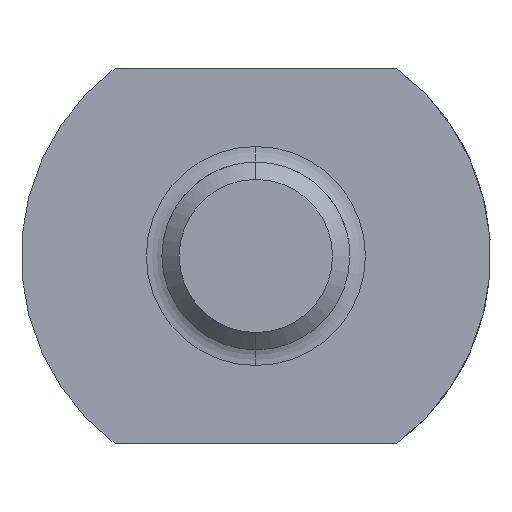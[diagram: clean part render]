
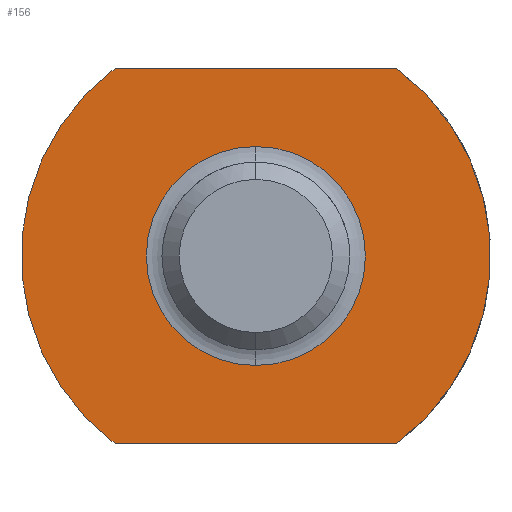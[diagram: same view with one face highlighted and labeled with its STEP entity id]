
A CAD part, left-side view. The second image highlights one B-rep face of the part: STEP entity #156.
In plain terms, the highlighted planar face has unit normal (-1, 0, 0).
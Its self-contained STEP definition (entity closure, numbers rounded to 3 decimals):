
#57=CARTESIAN_POINT('Line Origine',(0.,0.,-10.)) ;
#61=CARTESIAN_POINT('Vertex',(0.,-7.5,-10.)) ;
#63=CARTESIAN_POINT('Vertex',(0.,7.5,-10.)) ;
#92=CARTESIAN_POINT('Axis2P3D Location',(0.,5.833,0.)) ;
#97=CARTESIAN_POINT('Axis2P3D Location',(0.,0.,0.)) ;
#101=CARTESIAN_POINT('Vertex',(0.,7.5,10.)) ;
#104=CARTESIAN_POINT('Axis2P3D Location',(0.,0.,0.)) ;
#108=CARTESIAN_POINT('Vertex',(0.,-7.5,10.)) ;
#111=CARTESIAN_POINT('Line Origine',(0.,0.,10.)) ;
#122=CARTESIAN_POINT('Axis2P3D Location',(0.,0.,0.)) ;
#126=CARTESIAN_POINT('Vertex',(0.,5.833,0.)) ;
#128=CARTESIAN_POINT('Vertex',(0.,0.,5.833)) ;
#131=CARTESIAN_POINT('Axis2P3D Location',(0.,0.,0.)) ;
#135=CARTESIAN_POINT('Vertex',(0.,-5.833,0.)) ;
#138=CARTESIAN_POINT('Axis2P3D Location',(0.,0.,0.)) ;
#142=CARTESIAN_POINT('Vertex',(0.,0.,-5.833)) ;
#145=CARTESIAN_POINT('Axis2P3D Location',(0.,0.,0.)) ;
#58=DIRECTION('Vector Direction',(0.,1.,0.)) ;
#93=DIRECTION('Axis2P3D Direction',(1.,0.,-0.)) ;
#94=DIRECTION('Axis2P3D XDirection',(-0.,0.,-1.)) ;
#98=DIRECTION('Axis2P3D Direction',(1.,0.,-0.)) ;
#105=DIRECTION('Axis2P3D Direction',(1.,0.,-0.)) ;
#112=DIRECTION('Vector Direction',(0.,-1.,0.)) ;
#123=DIRECTION('Axis2P3D Direction',(1.,0.,-0.)) ;
#132=DIRECTION('Axis2P3D Direction',(1.,0.,-0.)) ;
#139=DIRECTION('Axis2P3D Direction',(1.,0.,-0.)) ;
#146=DIRECTION('Axis2P3D Direction',(1.,0.,-0.)) ;
#95=AXIS2_PLACEMENT_3D('Plane Axis2P3D',#92,#93,#94) ;
#99=AXIS2_PLACEMENT_3D('Circle Axis2P3D',#97,#98,$) ;
#106=AXIS2_PLACEMENT_3D('Circle Axis2P3D',#104,#105,$) ;
#124=AXIS2_PLACEMENT_3D('Circle Axis2P3D',#122,#123,$) ;
#133=AXIS2_PLACEMENT_3D('Circle Axis2P3D',#131,#132,$) ;
#140=AXIS2_PLACEMENT_3D('Circle Axis2P3D',#138,#139,$) ;
#147=AXIS2_PLACEMENT_3D('Circle Axis2P3D',#145,#146,$) ;
#117=ORIENTED_EDGE('',*,*,#103,.F.) ;
#118=ORIENTED_EDGE('',*,*,#65,.F.) ;
#119=ORIENTED_EDGE('',*,*,#110,.F.) ;
#120=ORIENTED_EDGE('',*,*,#115,.F.) ;
#151=ORIENTED_EDGE('',*,*,#130,.T.) ;
#152=ORIENTED_EDGE('',*,*,#137,.T.) ;
#153=ORIENTED_EDGE('',*,*,#144,.T.) ;
#154=ORIENTED_EDGE('',*,*,#149,.T.) ;
#155=FACE_BOUND('',#150,.T.) ;
#59=VECTOR('Line Direction',#58,1.) ;
#113=VECTOR('Line Direction',#112,1.) ;
#156=ADVANCED_FACE('AGS3401M10',(#121,#155),#96,.F.) ;
#100=CIRCLE('generated circle',#99,12.5) ;
#107=CIRCLE('generated circle',#106,12.5) ;
#125=CIRCLE('generated circle',#124,5.833) ;
#134=CIRCLE('generated circle',#133,5.833) ;
#141=CIRCLE('generated circle',#140,5.833) ;
#148=CIRCLE('generated circle',#147,5.833) ;
#65=EDGE_CURVE('',#62,#64,#60,.T.) ;
#103=EDGE_CURVE('',#64,#102,#100,.T.) ;
#110=EDGE_CURVE('',#109,#62,#107,.T.) ;
#115=EDGE_CURVE('',#102,#109,#114,.T.) ;
#130=EDGE_CURVE('',#127,#129,#125,.T.) ;
#137=EDGE_CURVE('',#129,#136,#134,.T.) ;
#144=EDGE_CURVE('',#136,#143,#141,.T.) ;
#149=EDGE_CURVE('',#143,#127,#148,.T.) ;
#116=EDGE_LOOP('',(#117,#118,#119,#120)) ;
#150=EDGE_LOOP('',(#151,#152,#153,#154)) ;
#121=FACE_OUTER_BOUND('',#116,.T.) ;
#60=LINE('Line',#57,#59) ;
#114=LINE('Line',#111,#113) ;
#96=PLANE('Plane',#95) ;
#62=VERTEX_POINT('',#61) ;
#64=VERTEX_POINT('',#63) ;
#102=VERTEX_POINT('',#101) ;
#109=VERTEX_POINT('',#108) ;
#127=VERTEX_POINT('',#126) ;
#129=VERTEX_POINT('',#128) ;
#136=VERTEX_POINT('',#135) ;
#143=VERTEX_POINT('',#142) ;
